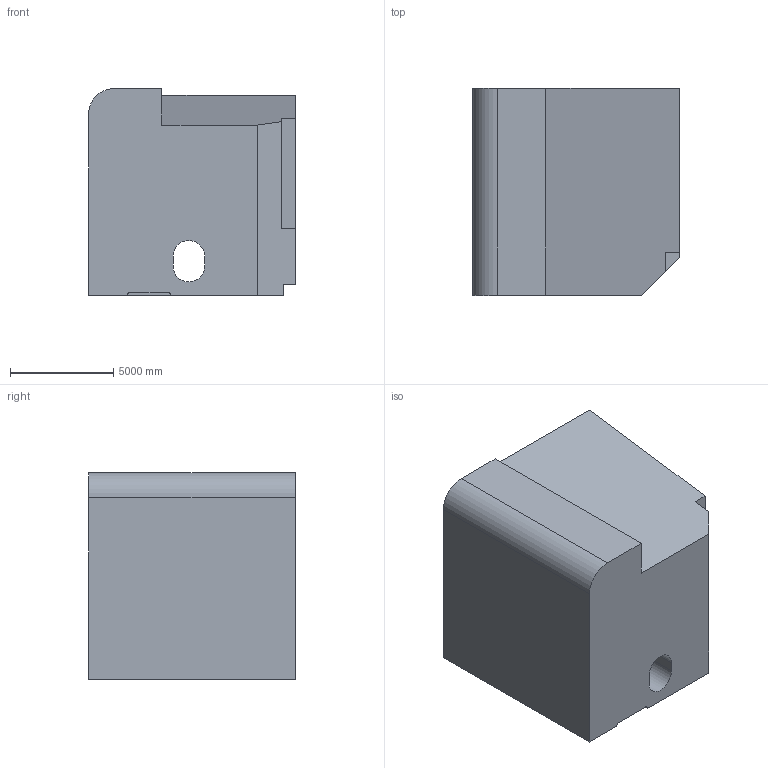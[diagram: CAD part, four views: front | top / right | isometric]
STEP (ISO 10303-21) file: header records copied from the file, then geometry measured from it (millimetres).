
FILE_DESCRIPTION (( 'STEP AP203' ), '1' );
FILE_NAME ('190.STEP', '2022-09-05T16:05:23', ( 'user' ), ( '' ), 'SwSTEP 2.0', 'SolidWorks 2021', '' );
FILE_SCHEMA (( 'CONFIG_CONTROL_DESIGN' ));
Length unit declared in the file: centimetre
Products named in the file (1): 190
Bounding box: 10000 x 10000 x 10000 mm (x, y, z)
Volume: 870011172916.9 mm3; surface area: 642516044 mm2
Topology: 1 solids, 1 shells, 35 faces, 96 edges, 64 vertices
Faces by surface type: plane 24, cylinder 11
Entity records: 1248 total; most frequent: CARTESIAN_POINT 253, ORIENTED_EDGE 192, DIRECTION 189, EDGE_CURVE 96, VECTOR 73, LINE 73, VERTEX_POINT 64, AXIS2_PLACEMENT_3D 58
